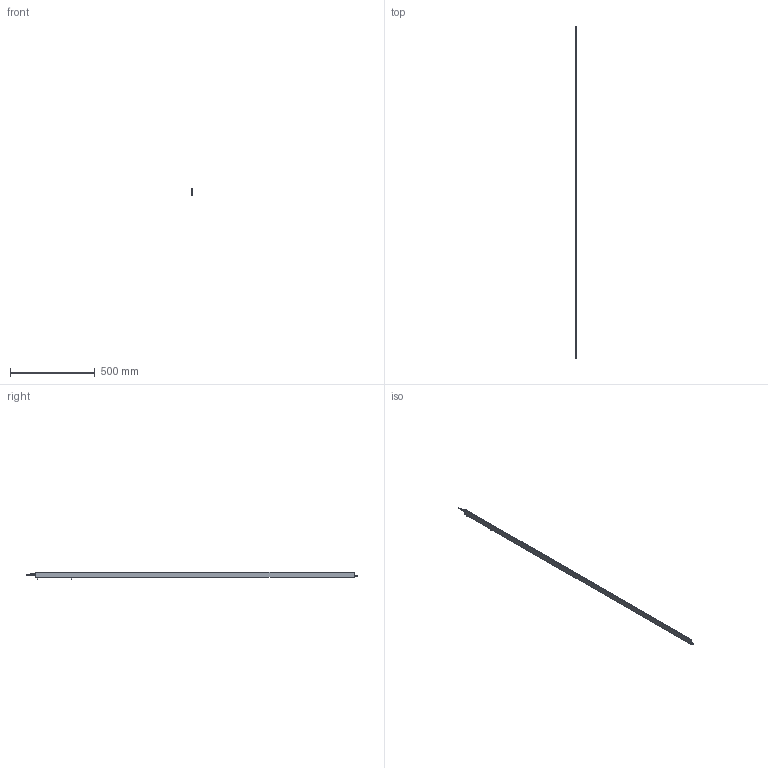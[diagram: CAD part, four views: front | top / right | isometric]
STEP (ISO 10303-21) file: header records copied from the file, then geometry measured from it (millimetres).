
FILE_DESCRIPTION (( 'STEP AP214' ), '1' );
FILE_NAME ('ILG-B-K2-1880mm.STEP', '2017-07-10T13:05:26', ( '' ), ( '' ), 'SwSTEP 2.0', 'SolidWorks 2016', '' );
FILE_SCHEMA (( 'AUTOMOTIVE_DESIGN' ));
Length unit declared in the file: millimetre
Products named in the file (1): ILG-B-K2-1880mm
Bounding box: 9 x 1953.5 x 46.21 mm (x, y, z)
Surface area: 313083.6 mm2 (no closed solid volume)
Topology: 0 solids, 15 shells, 702 faces, 1822 edges, 1157 vertices
Faces by surface type: cylinder 287, plane 266, cone 99, bspline 32, torus 18
Entity records: 31388 total; most frequent: CARTESIAN_POINT 6631, ORIENTED_EDGE 3597, DIRECTION 3488, EDGE_CURVE 1806, AXIS2_PLACEMENT_3D 1342, VERTEX_POINT 1157, LINE 804, VECTOR 804
